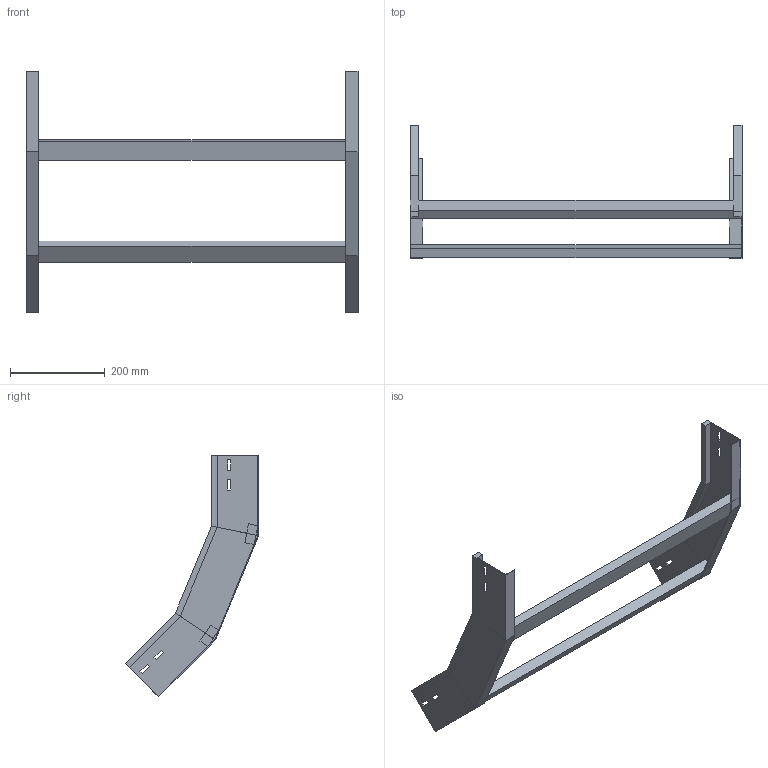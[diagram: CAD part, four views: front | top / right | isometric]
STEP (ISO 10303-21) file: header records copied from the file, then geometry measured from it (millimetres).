
FILE_DESCRIPTION (( 'STEP AP214' ), '1' );
FILE_NAME ('B2X31B5D700XX.step', '2025-03-20T10:06:03', ( '' ), ( '' ), 'SwSTEP 2.0', 'SolidWorks 2023', '' );
FILE_SCHEMA (( 'AUTOMOTIVE_DESIGN' ));
Length unit declared in the file: millimetre
Products named in the file (3): B2X31B5D700XX; TRAVERSINO_700; LONGH.SALITA_45°_H100_R500
Assembly tree (4 placements, depth 2):
  B2X31B5D700XX
    LONGH.SALITA_45°_H100_R500  x2
    TRAVERSINO_700  x2
Bounding box: 700 x 281.75 x 509.5 mm (x, y, z)
Volume: 1590676.9 mm3; surface area: 481022.2 mm2
Topology: 4 solids, 4 shells, 96 faces, 232 edges, 144 vertices
Faces by surface type: plane 96
Entity records: 1472 total; most frequent: CARTESIAN_POINT 243, ORIENTED_EDGE 232, DIRECTION 226, LINE 116, VECTOR 116, EDGE_CURVE 116, VERTEX_POINT 72, EDGE_LOOP 56
